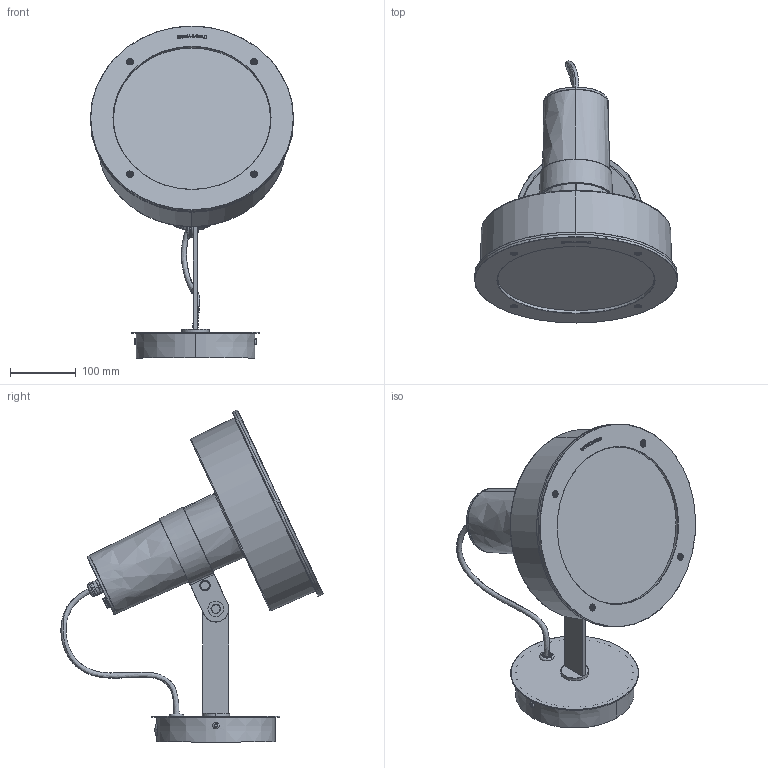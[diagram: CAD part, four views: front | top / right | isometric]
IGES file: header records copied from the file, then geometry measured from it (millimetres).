
Start section: SolidWorks IGES file using analytic representation for surfaces
Global section: file name: C:\Users\jordi.munoz\Desktop\ARNE\IGES WEB\Arne wall.IGS; native system: SolidWorks 2013; preprocessor: SolidWorks 2013; author: jordi.munoz; date: 150320.121756; units: millimetre
Bounding box: 310 x 399.81 x 506.43 mm (x, y, z)
Volume: 1590626.2 mm3; surface area: 847365.4 mm2
Topology: 43 solids, 43 shells, 2937 faces, 7017 edges, 4111 vertices
Faces by surface type: revolution 1269, bspline 1003, plane 665
